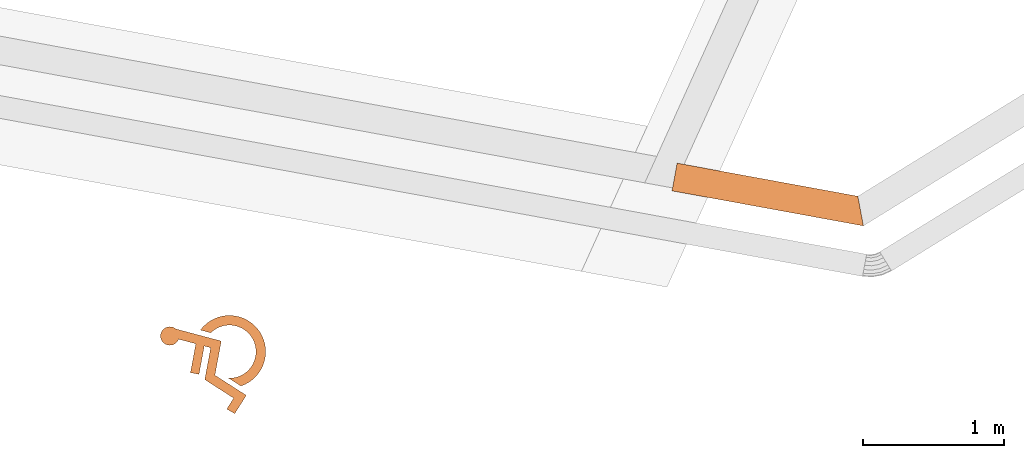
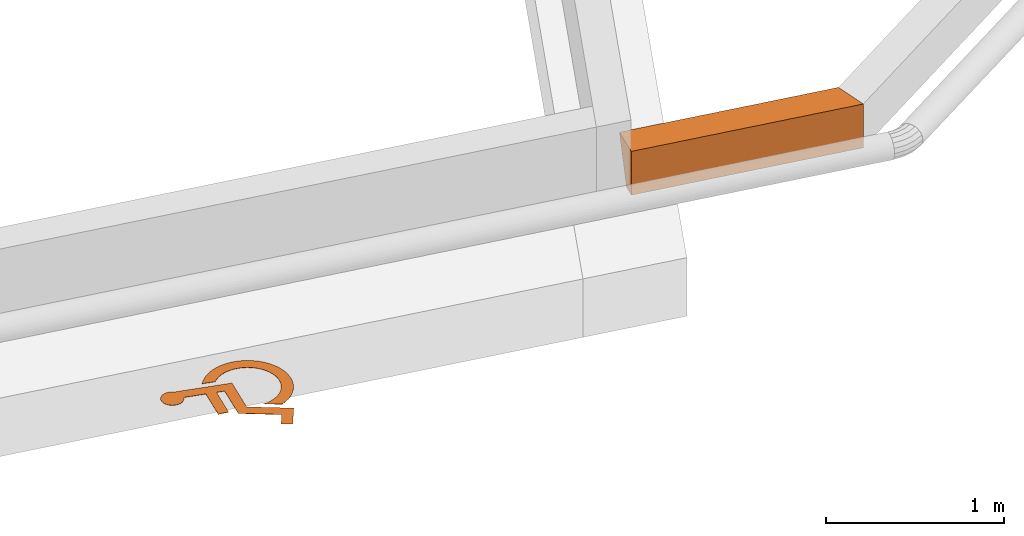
# One storey, part 16 of 17: 2 proxies.
"""IFC2X3 building model written with IfcOpenShell, lengths in centimetres."""

from ifc_helpers import new_model, entity, si_unit, converted_unit, derived_unit, direction, frame, frame_2d, origin, place, context, subcontext, project, spatial, polyline, circle_curve, parameter, trimmed, segment, composite_curve, outline, extrude, faceted_brep, source, transform, mapped, material, type_object, type_shapes, element, save


model = new_model("IFC2X3")

# Units and contexts
model_context = context("Model", 3, precision=0.001, world=origin(), true_north=direction((6.12303176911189e-17, 1.0)))
body_context = subcontext(model_context, "Body", "Model", "MODEL_VIEW")
ifc_project = project(units=[si_unit("LENGTHUNIT", "METRE", prefix="CENTI"), si_unit("AREAUNIT", "SQUARE_METRE"), si_unit("VOLUMEUNIT", "CUBIC_METRE"), converted_unit("PLANEANGLEUNIT", "DEGREE", entity("IfcRatioMeasure", 0.0174532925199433), si_unit("PLANEANGLEUNIT", "RADIAN"), dimensions=[0, 0, 0, 0, 0, 0, 0]), si_unit("MASSUNIT", "GRAM", prefix="KILO"), derived_unit("MASSDENSITYUNIT", [(si_unit("MASSUNIT", "GRAM", prefix="KILO"), 1), (si_unit("LENGTHUNIT", "METRE"), -3)]), si_unit("TIMEUNIT", "SECOND"), si_unit("FREQUENCYUNIT", "HERTZ"), si_unit("THERMODYNAMICTEMPERATUREUNIT", "DEGREE_CELSIUS"), derived_unit("THERMALTRANSMITTANCEUNIT", [(si_unit("MASSUNIT", "GRAM", prefix="KILO"), 1), (si_unit("THERMODYNAMICTEMPERATUREUNIT", "KELVIN"), -1), (si_unit("TIMEUNIT", "SECOND"), -3)]), derived_unit("VOLUMETRICFLOWRATEUNIT", [(si_unit("LENGTHUNIT", "METRE"), 3), (si_unit("TIMEUNIT", "SECOND"), -1)]), si_unit("ELECTRICCURRENTUNIT", "AMPERE"), si_unit("ELECTRICVOLTAGEUNIT", "VOLT"), si_unit("POWERUNIT", "WATT"), si_unit("FORCEUNIT", "NEWTON", prefix="KILO"), si_unit("ILLUMINANCEUNIT", "LUX"), si_unit("LUMINOUSFLUXUNIT", "LUMEN"), si_unit("LUMINOUSINTENSITYUNIT", "CANDELA"), derived_unit("USERDEFINED", [(si_unit("MASSUNIT", "GRAM", prefix="KILO"), -1), (si_unit("LENGTHUNIT", "METRE"), -2), (si_unit("TIMEUNIT", "SECOND"), 3), (si_unit("LUMINOUSFLUXUNIT", "LUMEN"), 1)]), derived_unit("LINEARVELOCITYUNIT", [(si_unit("LENGTHUNIT", "METRE"), 1), (si_unit("TIMEUNIT", "SECOND"), -1)]), si_unit("PRESSUREUNIT", "PASCAL"), derived_unit("USERDEFINED", [(si_unit("LENGTHUNIT", "METRE"), -2), (si_unit("MASSUNIT", "GRAM", prefix="KILO"), 1), (si_unit("TIMEUNIT", "SECOND"), -2)])], contexts=[model_context])

# Site, building, storey
site_placement = place(None, frame((2611.71187422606, 13650.4058644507, 0.0), z_axis=(0.0, 0.0, 1.0), x_axis=(0.0673222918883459, -0.997731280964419, 0.0)))
site = spatial("IfcSite", under=ifc_project, at=site_placement, Name="Surface", CompositionType="ELEMENT")
building_placement = place(site_placement, origin())
building = spatial("IfcBuilding", under=site, at=building_placement, CompositionType="ELEMENT")
storey_placement = place(building_placement, frame((0.0, 0.0, 86950.0)))
storey = spatial("IfcBuildingStorey", under=building, at=storey_placement, Name="-1 Soubassement", CompositionType="ELEMENT", Elevation=86950.0)

# Proxies
ifc_material = material(Name="Peinture de sol - Blanc")
building_element_proxy_type = type_object("IfcBuildingElementProxyType", Name="4.8m x 2.4m - 90°", PredefinedType="NOTDEFINED", material=ifc_material)
shared_shape = source(origin(), body_context, "Body", "SweptSolid", [
    extrude(outline(composite_curve([segment(trimmed(circle_curve(frame_2d((-17.7955390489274, -32.1940301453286), x_axis=(1.0, 0.0)), 6.60449208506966), [parameter(149.322289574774)], [parameter(80.4703885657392)], True, "PARAMETER"), True, "CONTINUOUS"), segment(polyline([(-16.70211708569, -25.6806789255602), (-15.7359913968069, -13.0057354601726)]), True, "CONTINUOUS"), segment(polyline([(-15.7359913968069, -13.0057354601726), (5.16830767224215, -13.0057354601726)]), True, "CONTINUOUS"), segment(polyline([(5.16830767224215, -13.0057354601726), (5.16830767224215, -6.83647076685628)]), True, "CONTINUOUS"), segment(polyline([(5.16830767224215, -6.83647076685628), (-15.2657498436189, -6.83647076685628)]), True, "CONTINUOUS"), segment(polyline([(-15.2657498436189, -6.83647076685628), (-14.9062712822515, -2.12034480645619)]), True, "CONTINUOUS"), segment(polyline([(-14.9062712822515, -2.12034480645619), (8.12793093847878, -2.12034480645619)]), True, "CONTINUOUS"), segment(polyline([(8.12793093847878, -2.12034480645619), (17.3094997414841, 20.4595044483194)]), True, "CONTINUOUS"), segment(polyline([(17.3094997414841, 20.4595044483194), (25.8404839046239, 17.0485793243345)]), True, "CONTINUOUS"), segment(polyline([(25.8404839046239, 17.0485793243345), (27.9569411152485, 23.21892177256)]), True, "CONTINUOUS"), segment(polyline([(27.9569411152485, 23.21892177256), (13.7140459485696, 28.9136280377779)]), True, "CONTINUOUS"), segment(polyline([(13.7140459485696, 28.9136280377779), (3.74401844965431, 4.39475519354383)]), True, "CONTINUOUS"), segment(polyline([(3.74401844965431, 4.39475519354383), (-20.9436679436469, 4.39475519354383)]), True, "CONTINUOUS"), segment(polyline([(-20.9436679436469, 4.39475519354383), (-23.4757378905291, -28.8243629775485)]), True, "CONTINUOUS")], self_intersect=False)), frame((138.355978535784, 240.487397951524, 0.0)), (0.0, 0.0, 1.0), 0.15875),
    extrude(outline(composite_curve([segment(trimmed(circle_curve(frame_2d((5.41878723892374, -5.19822477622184), x_axis=(0.0760028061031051, 0.997107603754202)), 25.7270259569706), [parameter(116.094015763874)], [parameter(331.008057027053)], True, "PARAMETER"), True, "CONTINUOUS"), segment(polyline([(19.5625658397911, 16.2920844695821), (9.78505019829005, 13.1586782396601)]), True, "CONTINUOUS"), segment(trimmed(circle_curve(frame_2d((5.41878723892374, -5.19822477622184), x_axis=(0.0760028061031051, 0.997107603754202)), 18.8690259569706), [parameter(124.684209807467)], [parameter(350.979426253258)], True, "PARAMETER"), False, "CONTINUOUS"), segment(polyline([(-10.8684294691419, -14.7253813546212), (-18.4791865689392, -14.7253813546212)]), True, "CONTINUOUS")], self_intersect=False)), frame((128.543573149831, 246.15862663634, 0.0), z_axis=(0.0, 0.0, -1.0), x_axis=(0.0760028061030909, 0.997107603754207, 0.0)), (0.0, 0.0, -1.0), 0.15875),
])
type_shapes(building_element_proxy_type, [shared_shape])
proxy_1_placement = place(storey_placement, frame((5133.39022442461, -323.058041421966, 48.0780368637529), z_axis=(0.0, 0.0, 1.0), x_axis=(0.968612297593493, -0.248576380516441, 0.0)))
element("IfcBuildingElementProxy", 1, at=proxy_1_placement, inside=storey, type_object=building_element_proxy_type, material=ifc_material, Name="Place de parking - Handicapé:4.8m x 2.4m - 90°", ObjectType="Place de parking - Handicapé:4.8m x 2.4m - 90°", context=body_context, shape_type="MappedRepresentation", body=[
    mapped(shared_shape, transform((0.0, 0.0, 0.0), scale=1.0)),
])
proxy_2_placement = place(storey_placement, frame((5203.72956754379, 211.511757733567, 0.0)))
element("IfcBuildingElementProxy", 2, at=proxy_2_placement, inside=storey, Name="Bord de dalle:Be1", ObjectType="Bord de dalle:Be1", context=body_context, shape_type="Brep", body=[
    faceted_brep([(19.3856726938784, 0.0, 0.0), (19.3856726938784, 0.0, 30.0), (0.0, 4.91891189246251, 30.0), (11.4783588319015, 2.00639827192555, 0.0), (53.3669965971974, 133.922061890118, 0.0), (44.6881349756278, 132.887752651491, 0.0), (32.089787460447, 131.386336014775, 30.0), (53.3669965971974, 133.922061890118, 30.0)], [[[0, 1, 2, 3]], [[4, 5, 6, 7]], [[1, 0, 4, 7]], [[2, 1, 7, 6]], [[3, 2, 6, 5]], [[0, 3, 5, 4]]]),
])

save(model, "model.ifc")
